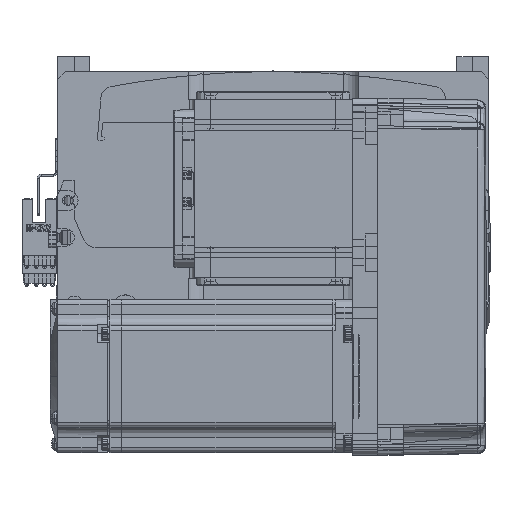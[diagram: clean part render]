
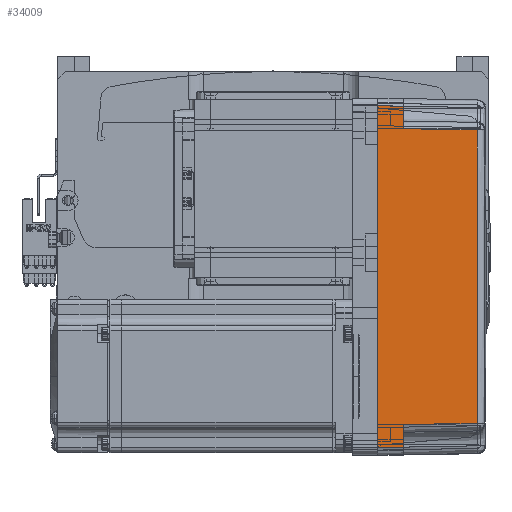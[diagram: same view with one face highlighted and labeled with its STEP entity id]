
A CAD part, top view. The second image highlights one B-rep face of the part: STEP entity #34009.
In plain terms, the highlighted planar face has unit normal (0.018, 0, 1) as drawn and (0, 1, 0.017) by its records, which use the part's own axes.
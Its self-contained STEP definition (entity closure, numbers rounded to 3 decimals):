
#322 = VERTEX_POINT ( 'NONE', #28327 ) ;
#781 = ORIENTED_EDGE ( 'NONE', *, *, #32935, .T. ) ;
#1588 = EDGE_CURVE ( 'NONE', #71506, #53175, #61559, .T. ) ;
#1834 = ORIENTED_EDGE ( 'NONE', *, *, #29691, .T. ) ;
#2180 = CARTESIAN_POINT ( 'NONE',  ( 66.826, 35.825, 10. ) ) ;
#2771 = VECTOR ( 'NONE', #66829, 1000. ) ;
#6445 = PLANE ( 'NONE',  #51076 ) ;
#6639 = CARTESIAN_POINT ( 'NONE',  ( -58., 35.825, 10. ) ) ;
#7971 = DIRECTION ( 'NONE',  ( 0., -0.017, 1. ) ) ;
#9137 = LINE ( 'NONE', #49211, #2771 ) ;
#9475 = DIRECTION ( 'NONE',  ( 1., 0., 0. ) ) ;
#10260 = CARTESIAN_POINT ( 'NONE',  ( -58., 35.825, 10. ) ) ;
#10543 = VERTEX_POINT ( 'NONE', #2180 ) ;
#10812 = VECTOR ( 'NONE', #35792, 1000. ) ;
#11084 = LINE ( 'NONE', #75249, #29398 ) ;
#11370 = CARTESIAN_POINT ( 'NONE',  ( 67., 36., 0. ) ) ;
#11425 = LINE ( 'NONE', #6639, #53459 ) ;
#12569 = ORIENTED_EDGE ( 'NONE', *, *, #15386, .T. ) ;
#13335 = DIRECTION ( 'NONE',  ( 0., 1., 0.017 ) ) ;
#13908 = CARTESIAN_POINT ( 'NONE',  ( -19.165, 35.316, 39.181 ) ) ;
#15386 = EDGE_CURVE ( 'NONE', #66699, #64476, #55172, .T. ) ;
#17378 = DIRECTION ( 'NONE',  ( 0.017, -0.017, 1. ) ) ;
#18210 = CARTESIAN_POINT ( 'NONE',  ( 70., 36., 0. ) ) ;
#18507 = CARTESIAN_POINT ( 'NONE',  ( 57.495, 35.32, 38.985 ) ) ;
#19887 = DIRECTION ( 'NONE',  ( 1., 0., 0. ) ) ;
#20710 = CARTESIAN_POINT ( 'NONE',  ( -66.826, 35.825, 10. ) ) ;
#20766 = CARTESIAN_POINT ( 'NONE',  ( -67., 36., 0. ) ) ;
#22654 = VERTEX_POINT ( 'NONE', #18507 ) ;
#23862 = ORIENTED_EDGE ( 'NONE', *, *, #34916, .T. ) ;
#24861 = CARTESIAN_POINT ( 'NONE',  ( -57.495, 35.32, 38.985 ) ) ;
#28301 = FACE_OUTER_BOUND ( 'NONE', #29854, .T. ) ;
#28327 = CARTESIAN_POINT ( 'NONE',  ( -57.495, 35.32, 38.985 ) ) ;
#29398 = VECTOR ( 'NONE', #17378, 1000. ) ;
#29691 = EDGE_CURVE ( 'NONE', #322, #22654, #70426, .T. ) ;
#29854 = EDGE_LOOP ( 'NONE', ( #781, #12569, #57173, #1834, #52588, #23862, #62670, #70255 ) ) ;
#30876 = CARTESIAN_POINT ( 'NONE',  ( 0., 36., 0. ) ) ;
#32443 = CARTESIAN_POINT ( 'NONE',  ( 70., 35.825, 10. ) ) ;
#32935 = EDGE_CURVE ( 'NONE', #71506, #66699, #11084, .T. ) ;
#34009 = ADVANCED_FACE ( 'NONE', ( #28301 ), #6445, .T. ) ;
#34916 = EDGE_CURVE ( 'NONE', #38255, #10543, #42768, .T. ) ;
#35792 = DIRECTION ( 'NONE',  ( 1., 0., 0. ) ) ;
#36214 = DIRECTION ( 'NONE',  ( 0.017, -0.017, 1. ) ) ;
#38255 = VERTEX_POINT ( 'NONE', #74461 ) ;
#38963 = EDGE_CURVE ( 'NONE', #53175, #10543, #9137, .T. ) ;
#42768 = LINE ( 'NONE', #53158, #10812 ) ;
#49211 = CARTESIAN_POINT ( 'NONE',  ( 67.001, 36.001, -0.052 ) ) ;
#51076 = AXIS2_PLACEMENT_3D ( 'NONE', #18210, #13335, #7971 ) ;
#52588 = ORIENTED_EDGE ( 'NONE', *, *, #64538, .T. ) ;
#53158 = CARTESIAN_POINT ( 'NONE',  ( 70., 35.825, 10. ) ) ;
#53175 = VERTEX_POINT ( 'NONE', #11370 ) ;
#53391 = VECTOR ( 'NONE', #9475, 1000. ) ;
#53459 = VECTOR ( 'NONE', #36214, 1000. ) ;
#54698 = CARTESIAN_POINT ( 'NONE',  ( 57.495, 35.32, 38.985 ) ) ;
#54823 = VECTOR ( 'NONE', #73993, 1000. ) ;
#55172 = LINE ( 'NONE', #32443, #53391 ) ;
#56173 = CARTESIAN_POINT ( 'NONE',  ( 57.495, 35.32, 38.985 ) ) ;
#57173 = ORIENTED_EDGE ( 'NONE', *, *, #72793, .T. ) ;
#59604 = CARTESIAN_POINT ( 'NONE',  ( 19.165, 35.316, 39.181 ) ) ;
#61559 = LINE ( 'NONE', #30876, #65214 ) ;
#62670 = ORIENTED_EDGE ( 'NONE', *, *, #38963, .F. ) ;
#64476 = VERTEX_POINT ( 'NONE', #10260 ) ;
#64538 = EDGE_CURVE ( 'NONE', #22654, #38255, #67571, .T. ) ;
#65214 = VECTOR ( 'NONE', #19887, 1000. ) ;
#66699 = VERTEX_POINT ( 'NONE', #20710 ) ;
#66829 = DIRECTION ( 'NONE',  ( -0.017, -0.017, 1. ) ) ;
#67571 = LINE ( 'NONE', #56173, #54823 ) ;
#70255 = ORIENTED_EDGE ( 'NONE', *, *, #1588, .F. ) ;
#70426 = B_SPLINE_CURVE_WITH_KNOTS ( 'NONE', 3,
 ( #24861, #13908, #59604, #54698 ),
 .UNSPECIFIED., .F., .F.,
 ( 4, 4 ),
 ( 0., 1. ),
 .UNSPECIFIED. ) ;
#71506 = VERTEX_POINT ( 'NONE', #20766 ) ;
#72793 = EDGE_CURVE ( 'NONE', #64476, #322, #11425, .T. ) ;
#73993 = DIRECTION ( 'NONE',  ( 0.017, 0.017, -1. ) ) ;
#74461 = CARTESIAN_POINT ( 'NONE',  ( 58., 35.825, 10. ) ) ;
#75249 = CARTESIAN_POINT ( 'NONE',  ( -67., 36., 0. ) ) ;
